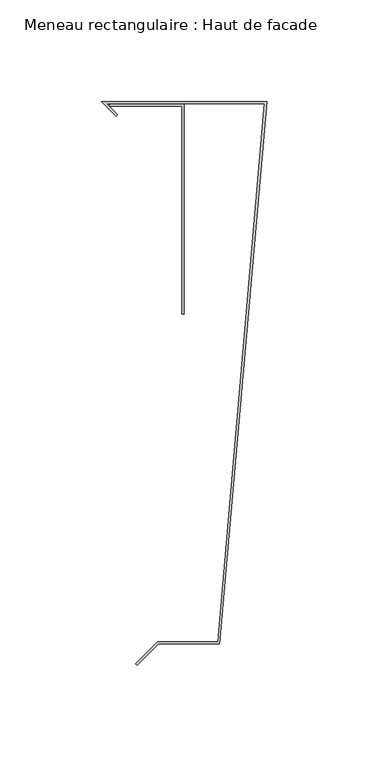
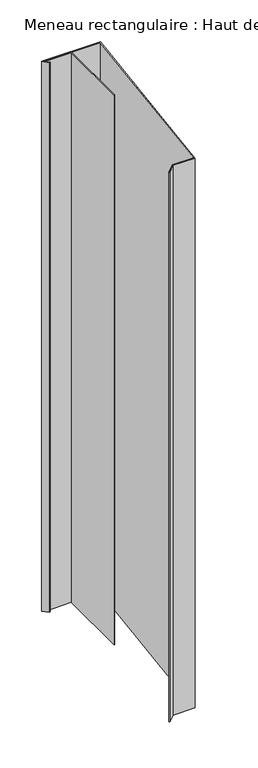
"""IFC4 building model written with IfcOpenShell, lengths in millimetres: member geometry, Meneau rectangulaire : Haut de facade."""

from ifc_helpers import new_model, si_unit, frame, origin, place, context, project, spatial, polyline, outline, extrude, source, transform, mapped, element, save


def meneau_rectangulaire_haut_de_facade_64e329c6(model_context):
    return source(origin(), model_context, "Body", "SweptSolid", [
        extrude(outline(polyline([(-24.0647895, -160.703755), (-1.0913085, 103.2), (-78.5857864, 103.2), (-73.2218254, 97.836039), (-73.9289322, 97.1289322), (-81.0, 104.2), (0.0, 104.2), (-23.1484584, -161.703755), (-53.1484584, -161.703755), (-63.7550601, -172.3103567), (-64.4621669, -171.6032499), (-53.5626719, -160.703755), (-24.0647895, -160.703755)])), frame((0.0, 0.0, -801.0000003), z_axis=(0.0, 0.0, 1.0), x_axis=(1.0, 0.0, 0.0)), (0.0, 0.0, 1.0), 801.0000003),
        extrude(outline(polyline([(-40.5477541, 102.9846816), (-40.5477541, 0.0384227), (-41.5477541, 0.0384227), (-41.5477541, 101.9846816), (-77.0752814, 101.9846816), (-77.0752814, 102.9846816), (-40.5477541, 102.9846816)])), frame((0.0, 0.0, -801.0000003), z_axis=(0.0, 0.0, 1.0), x_axis=(1.0, 0.0, 0.0)), (0.0, 0.0, 1.0), 801.0000003),
    ])


if __name__ == "__main__":
    model = new_model("IFC4")
    model_context = context("Model", 3, world=origin())
    ifc_project = project(units=[si_unit("LENGTHUNIT", "METRE", prefix="MILLI")], contexts=[model_context])
    site = spatial("IfcSite", under=ifc_project)
    building = spatial("IfcBuilding", under=site)
    placement = place(None, origin())
    meneau_rectangulaire_haut_de_facade_shape = meneau_rectangulaire_haut_de_facade_64e329c6(model_context)
    element("IfcMember", 1, ObjectType="Meneau rectangulaire : Haut de facade", at=placement, inside=building, context=model_context, shape_type="MappedRepresentation", body=[
        mapped(meneau_rectangulaire_haut_de_facade_shape, transform((0.0, 0.0, 0.0), x_axis=(1.0, 0.0, 0.0), y_axis=(0.0, 1.0, 0.0), z_axis=(0.0, 0.0, 1.0))),
    ])
    save(model, "model.ifc")
